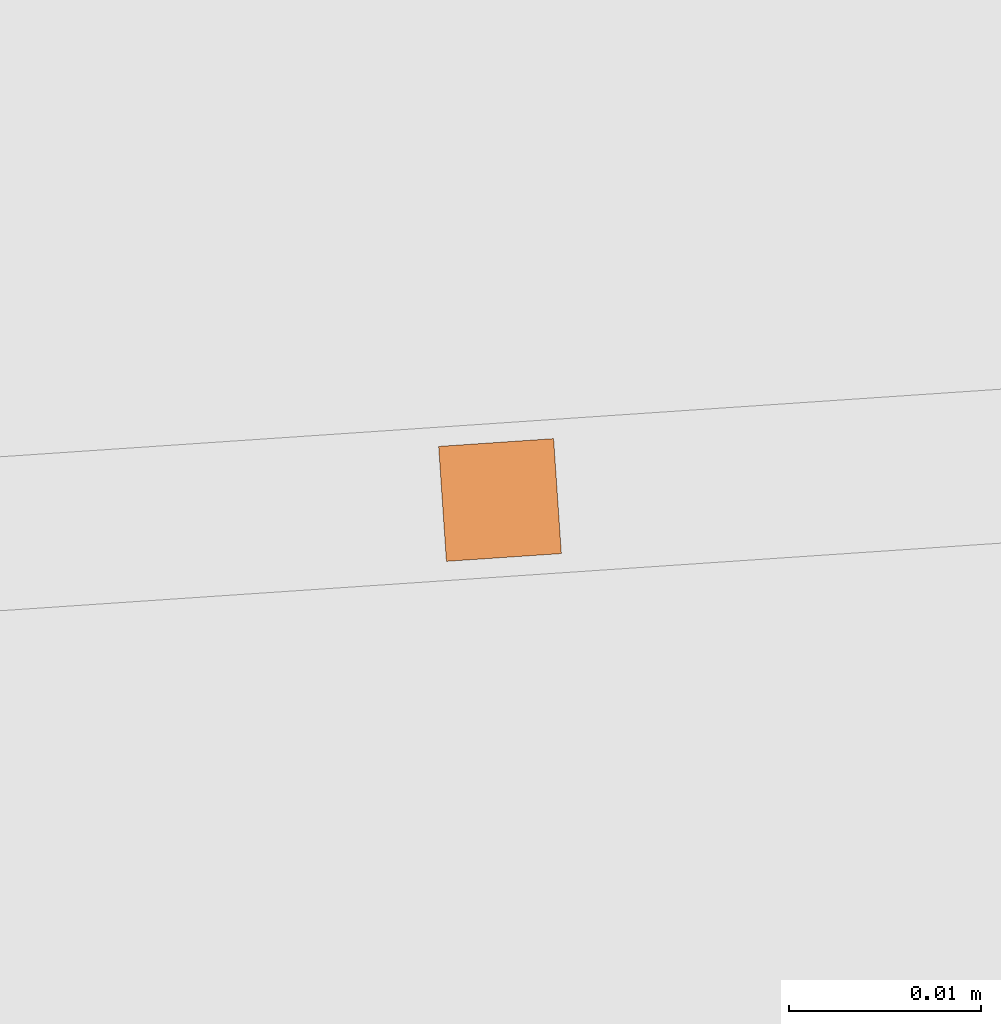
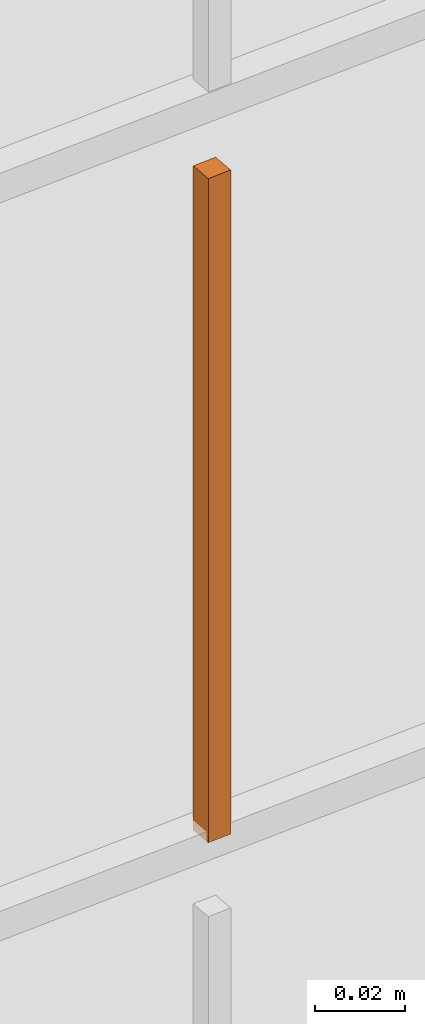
# One storey, part 111 of 1809: 1 proxy, 1 element without a shape of its own.
"""IFC2X3 building model written with IfcOpenShell, lengths in millimetres."""

from ifc_helpers import new_model, entity, si_unit, converted_unit, derived_unit, money_unit, direction, frame, origin_with_axes, place, context, subcontext, project, spatial, faceted_brep, source, transform, mapped, material, type_object, element, aggregate, save


model = new_model("IFC2X3")

# Units and contexts
model_context = context("Model", 3, precision=0.01, world=origin_with_axes(), true_north=direction((0.0, 1.0)))
body_context = subcontext(model_context, "Body", "Model", "MODEL_VIEW")
ifc_project = project(units=[si_unit("LENGTHUNIT", "METRE", prefix="MILLI"), si_unit("AREAUNIT", "SQUARE_METRE"), si_unit("VOLUMEUNIT", "CUBIC_METRE"), converted_unit("PLANEANGLEUNIT", "DEGREE", entity("IfcPlaneAngleMeasure", 0.0174532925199), si_unit("PLANEANGLEUNIT", "RADIAN"), dimensions=[0, 0, 0, 0, 0, 0, 0]), si_unit("SOLIDANGLEUNIT", "STERADIAN"), money_unit("EUR"), converted_unit("TIMEUNIT", "Year", entity("IfcTimeMeasure", 31556926.0), si_unit("TIMEUNIT", "SECOND"), dimensions=[0, 0, 1, 0, 0, 0, 0]), si_unit("MASSUNIT", "GRAM", prefix="KILO"), si_unit("THERMODYNAMICTEMPERATUREUNIT", "DEGREE_CELSIUS"), si_unit("LUMINOUSINTENSITYUNIT", "LUMEN"), si_unit("ENERGYUNIT", "JOULE", prefix="MEGA"), derived_unit("THERMALCONDUCTANCEUNIT", [(si_unit("POWERUNIT", "WATT"), 1), (si_unit("LENGTHUNIT", "METRE"), -1), (si_unit("THERMODYNAMICTEMPERATUREUNIT", "KELVIN"), -1)]), derived_unit("SPECIFICHEATCAPACITYUNIT", [(si_unit("ENERGYUNIT", "JOULE"), 1), (si_unit("MASSUNIT", "GRAM", prefix="KILO"), -1), (si_unit("THERMODYNAMICTEMPERATUREUNIT", "KELVIN"), -1)]), derived_unit("MASSDENSITYUNIT", [(si_unit("MASSUNIT", "GRAM", prefix="KILO"), 1), (si_unit("VOLUMEUNIT", "CUBIC_METRE"), -1)])], contexts=[model_context])

# Site, building, storey
site_placement = place(None, origin_with_axes())
site = spatial("IfcSite", under=ifc_project, at=site_placement, Name="Politse- ja Piirivalveameti ning Päästeameti ühishoone", CompositionType="ELEMENT")
building_placement = place(site_placement, origin_with_axes())
building = spatial("IfcBuilding", under=site, at=building_placement, Name="Politse- ja Piirivalveameti ning Päästeameti ühishoone", CompositionType="ELEMENT")
storey_placement = place(building_placement, origin_with_axes())
storey = spatial("IfcBuildingStorey", under=building, at=storey_placement, Name="Esimene korrus", CompositionType="ELEMENT", Elevation=0.0)

# Proxies
building_element_proxy_type_1 = type_object("IfcBuildingElementProxyType", Name="Railing Type", PredefinedType="NOTDEFINED")
proxy_1_placement = place(storey_placement, frame((89252.001212, -29183.4766571, 203.661247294), z_axis=(0.0, 0.0, 1.0), x_axis=(1.0, 0.0, 0.0)))
proxy_1 = element("IfcBuildingElementProxy", 1, at=proxy_1_placement, inside=storey, type_object=building_element_proxy_type_1, Name="PIIRDEAED")
ifc_material = material(Name="ET-03_Raud")
building_element_proxy_type_2 = type_object("IfcBuildingElementProxyType", Name="IfcBuildingElementProxy", PredefinedType="NOTDEFINED")
shared_shape = source(origin_with_axes(), body_context, "Body", "Brep", [
    faceted_brep([(3.0, 3.0, -0.000752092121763), (-3.0, 3.0, -0.000752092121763), (-3.0, 3.0, 179.99926046), (3.0, 3.0, 179.99926046), (3.0, -3.0, 0.000752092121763), (-3.0, -3.0, 0.000752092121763), (-3.0, -3.0, 180.000764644), (3.0, -3.0, 180.000764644)], [[[0, 1, 2, 3]], [[0, 4, 5, 1]], [[1, 5, 6, 2]], [[3, 2, 6, 7]], [[4, 0, 3, 7]], [[5, 4, 7, 6]]]),
])
proxy_2_placement = place(proxy_1_placement, frame((-93114.5125659, -23587.3086839, 1803.83762992), z_axis=(0.0, 0.0, 1.0), x_axis=(1.0, 0.0, 0.0)))
proxy_2 = element("IfcBuildingElementProxy", 2, at=proxy_2_placement, type_object=building_element_proxy_type_2, material=ifc_material, Name="BALUSTER - 001", context=body_context, shape_type="MappedRepresentation", body=[
    mapped(shared_shape, transform((0.0, 0.0, 0.0), x_axis=(-0.0673926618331, 0.997726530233, 0.0), y_axis=(-0.997726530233, -0.0673926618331, 0.0), z_axis=(0.0, 0.0, 1.0))),
])
aggregate(proxy_1, [proxy_2])

save(model, "model.ifc")
